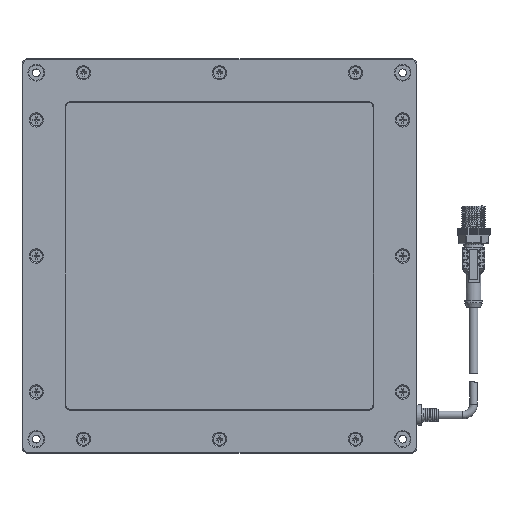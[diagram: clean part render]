
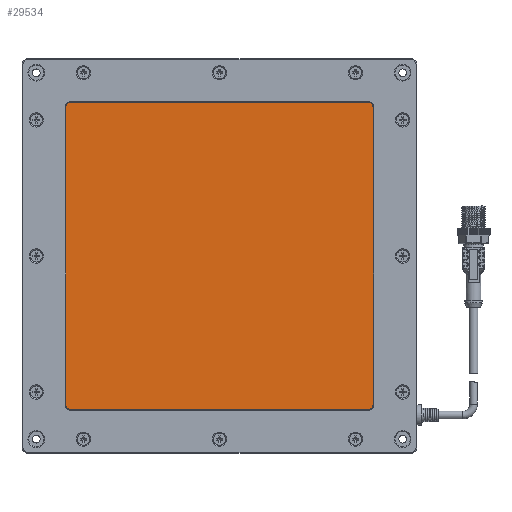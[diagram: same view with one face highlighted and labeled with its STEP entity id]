
A CAD part, top view. The second image highlights one B-rep face of the part: STEP entity #29534.
In plain terms, the highlighted planar face has unit normal (0, 0, 1).
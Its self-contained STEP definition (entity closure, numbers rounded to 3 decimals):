
#1332 = CARTESIAN_POINT ( 'NONE',  ( 70.3, -68., 10. ) ) ;
#6524 = VERTEX_POINT ( 'NONE', #75239 ) ;
#7522 = CARTESIAN_POINT ( 'NONE',  ( -68., -68., 10. ) ) ;
#8530 = CIRCLE ( 'NONE', #58439, 2.3 ) ;
#8897 = VERTEX_POINT ( 'NONE', #31081 ) ;
#10619 = AXIS2_PLACEMENT_3D ( 'NONE', #19554, #34683, #20072 ) ;
#12938 = AXIS2_PLACEMENT_3D ( 'NONE', #65258, #33426, #42024 ) ;
#15098 = VERTEX_POINT ( 'NONE', #1332 ) ;
#18321 = EDGE_CURVE ( 'NONE', #31103, #104018, #67951, .T. ) ;
#19113 = CARTESIAN_POINT ( 'NONE',  ( -68., 68., 10. ) ) ;
#19554 = CARTESIAN_POINT ( 'NONE',  ( -68., 68., 10. ) ) ;
#20072 = DIRECTION ( 'NONE',  ( 1., 0., 0. ) ) ;
#22468 = CARTESIAN_POINT ( 'NONE',  ( 68., 68., 10. ) ) ;
#22659 = AXIS2_PLACEMENT_3D ( 'NONE', #7522, #64182, #79930 ) ;
#23554 = CARTESIAN_POINT ( 'NONE',  ( 68., 70.3, 10. ) ) ;
#29534 = ADVANCED_FACE ( 'NONE', ( #34156 ), #93479, .T. ) ;
#31054 = VECTOR ( 'NONE', #94696, 1000. ) ;
#31081 = CARTESIAN_POINT ( 'NONE',  ( -70.3, 68., 10. ) ) ;
#31103 = VERTEX_POINT ( 'NONE', #23554 ) ;
#31511 = VERTEX_POINT ( 'NONE', #35105 ) ;
#32167 = EDGE_CURVE ( 'NONE', #8897, #89516, #79068, .T. ) ;
#33426 = DIRECTION ( 'NONE',  ( 0., 0., 1. ) ) ;
#34156 = FACE_OUTER_BOUND ( 'NONE', #105128, .T. ) ;
#34683 = DIRECTION ( 'NONE',  ( 0., 0., 1. ) ) ;
#35105 = CARTESIAN_POINT ( 'NONE',  ( 68., -70.3, 10. ) ) ;
#37161 = CARTESIAN_POINT ( 'NONE',  ( -68., 70.3, 10. ) ) ;
#42024 = DIRECTION ( 'NONE',  ( 1., 0., 0. ) ) ;
#42467 = EDGE_CURVE ( 'NONE', #31511, #15098, #55943, .T. ) ;
#46679 = VECTOR ( 'NONE', #94798, 1000. ) ;
#47666 = EDGE_CURVE ( 'NONE', #78640, #31511, #95846, .T. ) ;
#51979 = DIRECTION ( 'NONE',  ( 0., 0., 1. ) ) ;
#53716 = DIRECTION ( 'NONE',  ( 1., 0., 0. ) ) ;
#55905 = LINE ( 'NONE', #80314, #81776 ) ;
#55943 = CIRCLE ( 'NONE', #12938, 2.3 ) ;
#56819 = ORIENTED_EDGE ( 'NONE', *, *, #42467, .T. ) ;
#58439 = AXIS2_PLACEMENT_3D ( 'NONE', #22468, #95296, #53716 ) ;
#62678 = EDGE_CURVE ( 'NONE', #6524, #31103, #8530, .T. ) ;
#64182 = DIRECTION ( 'NONE',  ( 0., 0., 1. ) ) ;
#65258 = CARTESIAN_POINT ( 'NONE',  ( 68., -68., 10. ) ) ;
#67951 = LINE ( 'NONE', #37161, #101842 ) ;
#70136 = ORIENTED_EDGE ( 'NONE', *, *, #32167, .T. ) ;
#73280 = DIRECTION ( 'NONE',  ( 1., 0., 0. ) ) ;
#73315 = EDGE_CURVE ( 'NONE', #104018, #8897, #77047, .T. ) ;
#74685 = ORIENTED_EDGE ( 'NONE', *, *, #18321, .T. ) ;
#75239 = CARTESIAN_POINT ( 'NONE',  ( 70.3, 68., 10. ) ) ;
#76878 = EDGE_CURVE ( 'NONE', #89516, #78640, #79530, .T. ) ;
#77047 = CIRCLE ( 'NONE', #89108, 2.3 ) ;
#78640 = VERTEX_POINT ( 'NONE', #80634 ) ;
#78962 = ORIENTED_EDGE ( 'NONE', *, *, #62678, .T. ) ;
#79068 = LINE ( 'NONE', #87178, #31054 ) ;
#79105 = EDGE_CURVE ( 'NONE', #15098, #6524, #55905, .T. ) ;
#79182 = CARTESIAN_POINT ( 'NONE',  ( 68., -70.3, 10. ) ) ;
#79530 = CIRCLE ( 'NONE', #22659, 2.3 ) ;
#79930 = DIRECTION ( 'NONE',  ( 1., 0., 0. ) ) ;
#80314 = CARTESIAN_POINT ( 'NONE',  ( 70.3, 68., 10. ) ) ;
#80634 = CARTESIAN_POINT ( 'NONE',  ( -68., -70.3, 10. ) ) ;
#81776 = VECTOR ( 'NONE', #105118, 1000. ) ;
#84419 = CARTESIAN_POINT ( 'NONE',  ( -70.3, -68., 10. ) ) ;
#85804 = ORIENTED_EDGE ( 'NONE', *, *, #79105, .T. ) ;
#87178 = CARTESIAN_POINT ( 'NONE',  ( -70.3, -68., 10. ) ) ;
#89108 = AXIS2_PLACEMENT_3D ( 'NONE', #19113, #51979, #73280 ) ;
#89516 = VERTEX_POINT ( 'NONE', #84419 ) ;
#91026 = ORIENTED_EDGE ( 'NONE', *, *, #73315, .T. ) ;
#92809 = DIRECTION ( 'NONE',  ( -1., 0., 0. ) ) ;
#93479 = PLANE ( 'NONE',  #10619 ) ;
#93515 = ORIENTED_EDGE ( 'NONE', *, *, #76878, .T. ) ;
#94393 = CARTESIAN_POINT ( 'NONE',  ( -68., 70.3, 10. ) ) ;
#94696 = DIRECTION ( 'NONE',  ( 0., -1., 0. ) ) ;
#94798 = DIRECTION ( 'NONE',  ( 1., 0., 0. ) ) ;
#95296 = DIRECTION ( 'NONE',  ( 0., 0., 1. ) ) ;
#95846 = LINE ( 'NONE', #79182, #46679 ) ;
#96756 = ORIENTED_EDGE ( 'NONE', *, *, #47666, .T. ) ;
#101842 = VECTOR ( 'NONE', #92809, 1000. ) ;
#104018 = VERTEX_POINT ( 'NONE', #94393 ) ;
#105118 = DIRECTION ( 'NONE',  ( 0., 1., 0. ) ) ;
#105128 = EDGE_LOOP ( 'NONE', ( #91026, #70136, #93515, #96756, #56819, #85804, #78962, #74685 ) ) ;
